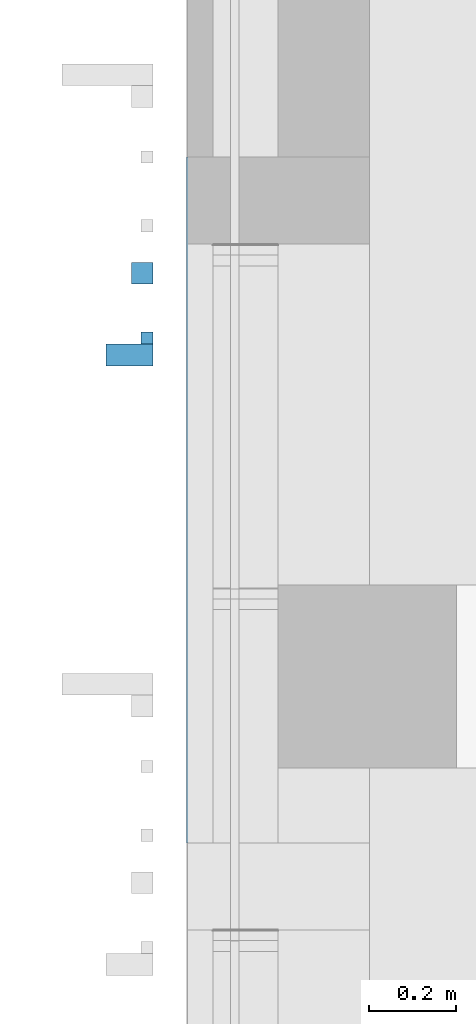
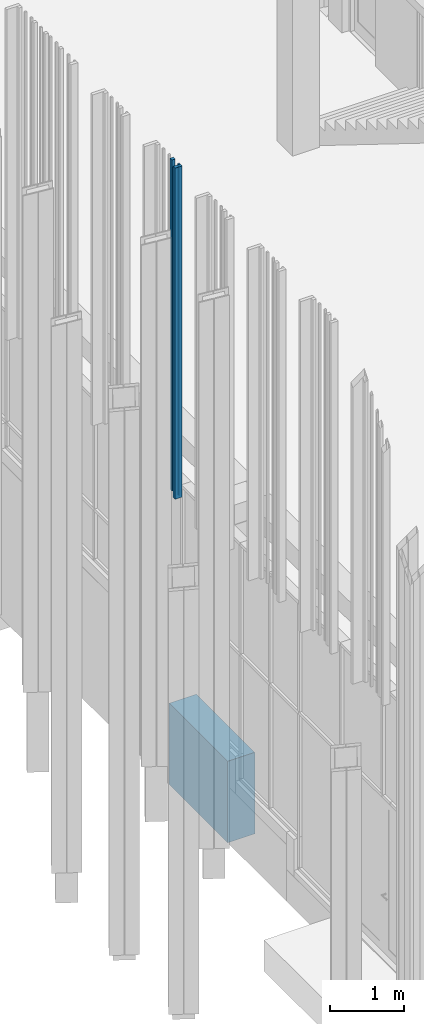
# One storey, part 109 of 390: 4 walls.
"""IFC2X3 building model written with IfcOpenShell, lengths in millimetres."""

from ifc_helpers import new_model, entity, si_unit, converted_unit, derived_unit, money_unit, direction, frame, origin_with_axes, place, context, subcontext, project, spatial, faceted_brep, material, material_list, type_object, element, save


model = new_model("IFC2X3")

# Units and contexts
model_context = context("Model", 3, precision=1e-05, world=origin_with_axes(), true_north=direction((0.0, 1.0)))
body_context = subcontext(model_context, "Body", "Model", "MODEL_VIEW")
ifc_project = project(units=[si_unit("LENGTHUNIT", "METRE", prefix="MILLI"), si_unit("AREAUNIT", "SQUARE_METRE"), si_unit("VOLUMEUNIT", "CUBIC_METRE"), converted_unit("PLANEANGLEUNIT", "DEGREE", entity("IfcPlaneAngleMeasure", 0.0174532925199), si_unit("PLANEANGLEUNIT", "RADIAN"), dimensions=[0, 0, 0, 0, 0, 0, 0]), si_unit("SOLIDANGLEUNIT", "STERADIAN"), money_unit("EUR"), converted_unit("TIMEUNIT", "Year", entity("IfcTimeMeasure", 31556926.0), si_unit("TIMEUNIT", "SECOND"), dimensions=[0, 0, 1, 0, 0, 0, 0]), si_unit("MASSUNIT", "GRAM", prefix="KILO"), si_unit("THERMODYNAMICTEMPERATUREUNIT", "DEGREE_CELSIUS"), si_unit("LUMINOUSINTENSITYUNIT", "LUMEN"), si_unit("ENERGYUNIT", "JOULE", prefix="MEGA"), derived_unit("THERMALCONDUCTANCEUNIT", [(si_unit("POWERUNIT", "WATT"), 1), (si_unit("LENGTHUNIT", "METRE"), -1), (si_unit("THERMODYNAMICTEMPERATUREUNIT", "KELVIN"), -1)]), derived_unit("SPECIFICHEATCAPACITYUNIT", [(si_unit("ENERGYUNIT", "JOULE"), 1), (si_unit("MASSUNIT", "GRAM", prefix="KILO"), -1), (si_unit("THERMODYNAMICTEMPERATUREUNIT", "KELVIN"), -1)]), derived_unit("MASSDENSITYUNIT", [(si_unit("MASSUNIT", "GRAM", prefix="KILO"), 1), (si_unit("VOLUMEUNIT", "CUBIC_METRE"), -1)])], contexts=[model_context])

# Site, building, storey
site_placement = place(None, origin_with_axes())
site = spatial("IfcSite", under=ifc_project, at=site_placement, Name="Site", CompositionType="ELEMENT")
building_placement = place(site_placement, origin_with_axes())
building = spatial("IfcBuilding", under=site, at=building_placement, Name="Building", CompositionType="ELEMENT")
storey_placement = place(building_placement, origin_with_axes())
storey = spatial("IfcBuildingStorey", under=building, at=storey_placement, Name="1 korrus", CompositionType="ELEMENT", Elevation=0.0)

# Walls
ifc_material_1 = material(Name="Membraan - Veekindel")
ifc_material_2 = material(Name="Soojustus - Plastik Kõva")
ifc_material_3 = material(Name="Raudbetoon - Konstruktsioon")
ifc_material_4 = material(Name="Krohv - Lubjakivi")
ifc_material_list = material_list([ifc_material_1, ifc_material_1, ifc_material_2, ifc_material_2, ifc_material_3, ifc_material_4])
wall_type_1 = type_object("IfcWallType", Name="VS-03", PredefinedType="NOTDEFINED")
wall_1_placement = place(storey_placement, frame((122909.999995, 51787.5685601, -620.0), z_axis=(0.0, 0.0, 1.0), x_axis=(0.0, 1.0, 0.0)))
element("IfcWall", 1, at=wall_1_placement, inside=storey, type_object=wall_type_1, material=ifc_material_list, Name="VS-03", context=body_context, shape_type="Brep", body=[
    faceted_brep([(1574.99999999, 420.000000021, 0.0), (1574.99999999, 415.000000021, 0.0), (-5.563549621e-09, 415.0, 0.0), (-5.62749846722e-09, 420.0, 0.0), (1574.99999999, 420.000000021, 1340.0), (1574.99999999, 415.000000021, 1340.0), (-5.563549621e-09, 415.0, 1340.0), (-5.62749846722e-09, 420.0, 1340.0)], [[[0, 1, 2, 3]], [[0, 4, 5, 1]], [[1, 5, 6, 2]], [[3, 2, 6, 7]], [[4, 0, 3, 7]], [[5, 4, 7, 6]]]),
    faceted_brep([(1574.99999999, 415.000000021, 0.0), (1574.99999999, 410.000000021, 0.0), (-5.49249534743e-09, 410.0, 0.0), (-5.563549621e-09, 415.0, 0.0), (1574.99999999, 415.000000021, 1340.0), (1574.99999999, 410.000000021, 1340.0), (-5.49249534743e-09, 410.0, 1340.0), (-5.563549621e-09, 415.0, 1340.0)], [[[0, 1, 2, 3]], [[0, 4, 5, 1]], [[1, 5, 6, 2]], [[3, 2, 6, 7]], [[4, 0, 3, 7]], [[5, 4, 7, 6]]]),
    faceted_brep([(1574.99999999, 410.000000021, 0.0), (1575.0, 360.000000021, 0.0), (-4.82458517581e-09, 360.0, 0.0), (-5.49249534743e-09, 410.0, 0.0), (1574.99999999, 410.000000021, 1340.0), (1575.0, 360.000000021, 1340.0), (-4.82458517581e-09, 360.0, 1340.0), (-5.49249534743e-09, 410.0, 1340.0)], [[[0, 1, 2, 3]], [[0, 4, 5, 1]], [[1, 5, 6, 2]], [[3, 2, 6, 7]], [[4, 0, 3, 7]], [[5, 4, 7, 6]]]),
    faceted_brep([(1575.0, 360.000000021, 0.0), (1575.0, 210.000000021, 0.0), (-2.81374923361e-09, 210.0, 0.0), (-4.82458517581e-09, 360.0, 0.0), (1575.0, 360.000000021, 1340.0), (1575.0, 210.000000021, 1340.0), (-2.81374923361e-09, 210.0, 1340.0), (-4.82458517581e-09, 360.0, 1340.0)], [[[0, 1, 2, 3]], [[0, 4, 5, 1]], [[1, 5, 6, 2]], [[3, 2, 6, 7]], [[4, 0, 3, 7]], [[5, 4, 7, 6]]]),
    faceted_brep([(1575.0, 210.000000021, 0.0), (1575.0, 10.0000000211, 0.0), (-1.35003119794e-10, 10.0, 0.0), (-2.81374923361e-09, 210.0, 0.0), (1575.0, 210.000000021, 1340.0), (1575.0, 10.0000000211, 1340.0), (-1.35003119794e-10, 10.0, 1340.0), (-2.81374923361e-09, 210.0, 1340.0)], [[[0, 1, 2, 3]], [[0, 4, 5, 1]], [[1, 5, 6, 2]], [[3, 2, 6, 7]], [[4, 0, 3, 7]], [[5, 4, 7, 6]]]),
    faceted_brep([(1575.0, 10.0000000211, 0.0), (1575.0, 2.11173301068e-08, 0.0), (0.0, 0.0, 0.0), (-1.35003119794e-10, 10.0, 0.0), (1575.0, 10.0000000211, 1340.0), (1575.0, 2.11173301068e-08, 1340.0), (0.0, 0.0, 1340.0), (-1.35003119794e-10, 10.0, 1340.0)], [[[0, 1, 2, 3]], [[0, 4, 5, 1]], [[1, 5, 6, 2]], [[3, 2, 6, 7]], [[4, 0, 3, 7]], [[5, 4, 7, 6]]]),
])
ifc_material_5 = material(Name="Site specified")
wall_type_2 = type_object("IfcWallType", Name="Puitfassaadi ribistik", PredefinedType="NOTDEFINED")
wall_2_placement = place(storey_placement, frame((122358.499997, 52908.0000095, 4424.99966101), z_axis=(0.0, 0.0, 1.0), x_axis=(0.0, 1.0, 0.0)))
element("IfcWall", 2, at=wall_2_placement, inside=storey, type_object=wall_type_2, material=ifc_material_5, Name="Site specified", context=body_context, shape_type="Brep", body=[
    faceted_brep([(25.0, 54.5, 5440.00033899), (25.0, 54.5, 0.0), (-25.0, 54.5, 0.0), (-25.0, 54.5, 5440.00033899), (25.0, -54.5, 5440.00033899), (25.0, -54.5, 0.0), (-25.0, -54.5, 0.0), (-25.0, -54.5, 5440.00033899)], [[[0, 1, 2, 3]], [[4, 5, 1, 0]], [[2, 1, 5, 6]], [[3, 2, 6, 7]], [[4, 0, 3, 7]], [[7, 6, 5, 4]]]),
])
wall_3_placement = place(storey_placement, frame((122387.999997, 53096.0000095, 4424.99966101), z_axis=(0.0, 0.0, 1.0), x_axis=(0.0, 1.0, 0.0)))
element("IfcWall", 3, at=wall_3_placement, inside=storey, type_object=wall_type_2, material=ifc_material_5, Name="Site specified", context=body_context, shape_type="Brep", body=[
    faceted_brep([(25.0, 25.0, 5440.00033899), (25.0, 25.0, 0.0), (-25.0, 25.0, 0.0), (-25.0, 25.0, 5440.00033899), (25.0, -25.0, 5440.00033899), (25.0, -25.0, 0.0), (-25.0, -25.0, 0.0), (-25.0, -25.0, 5440.00033899)], [[[0, 1, 2, 3]], [[4, 5, 1, 0]], [[2, 1, 5, 6]], [[3, 2, 6, 7]], [[4, 0, 3, 7]], [[7, 6, 5, 4]]]),
])
wall_4_placement = place(storey_placement, frame((122398.999997, 52947.0000095, 4424.99966101), z_axis=(0.0, 0.0, 1.0), x_axis=(0.0, 1.0, 0.0)))
element("IfcWall", 4, at=wall_4_placement, inside=storey, type_object=wall_type_2, material=ifc_material_5, Name="Site specified", context=body_context, shape_type="Brep", body=[
    faceted_brep([(14.0, 14.0, 5440.00033899), (14.0, 14.0, 0.0), (-14.0, 14.0, 0.0), (-14.0, 14.0, 5440.00033899), (14.0, -14.0, 5440.00033899), (14.0, -14.0, 0.0), (-14.0, -14.0, 0.0), (-14.0, -14.0, 5440.00033899)], [[[0, 1, 2, 3]], [[4, 5, 1, 0]], [[2, 1, 5, 6]], [[3, 2, 6, 7]], [[4, 0, 3, 7]], [[7, 6, 5, 4]]]),
])

save(model, "model.ifc")
